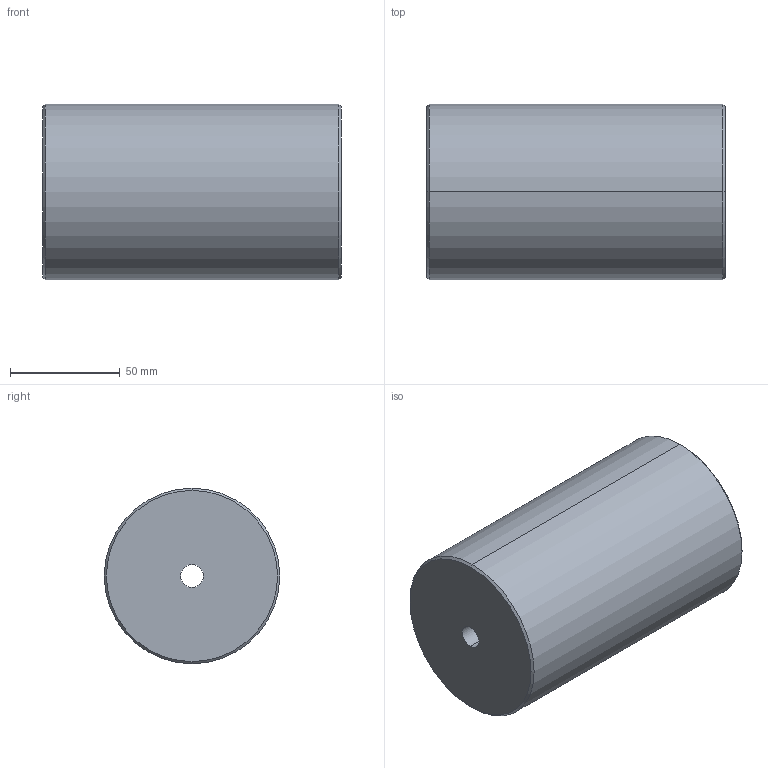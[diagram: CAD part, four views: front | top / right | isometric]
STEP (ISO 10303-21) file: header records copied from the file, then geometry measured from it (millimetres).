
FILE_DESCRIPTION (( 'STEP AP214' ), '1' );
FILE_NAME ('IMC-ES2-80x136.STEP', '2023-01-17T12:05:41', ( '' ), ( '' ), 'SwSTEP 2.0', 'SolidWorks 2019', '' );
FILE_SCHEMA (( 'AUTOMOTIVE_DESIGN' ));
Length unit declared in the file: millimetre
Products named in the file (1): IMC-ES2-80x136
Bounding box: 136 x 80 x 80 mm (x, y, z)
Volume: 669805.6 mm3; surface area: 48499.3 mm2
Topology: 1 solids, 1 shells, 13 faces, 26 edges, 16 vertices
Faces by surface type: cylinder 6, cone 4, plane 3
Entity records: 382 total; most frequent: DIRECTION 70, CARTESIAN_POINT 56, ORIENTED_EDGE 52, AXIS2_PLACEMENT_3D 30, EDGE_CURVE 26, CIRCLE 16, VERTEX_POINT 16, EDGE_LOOP 16
